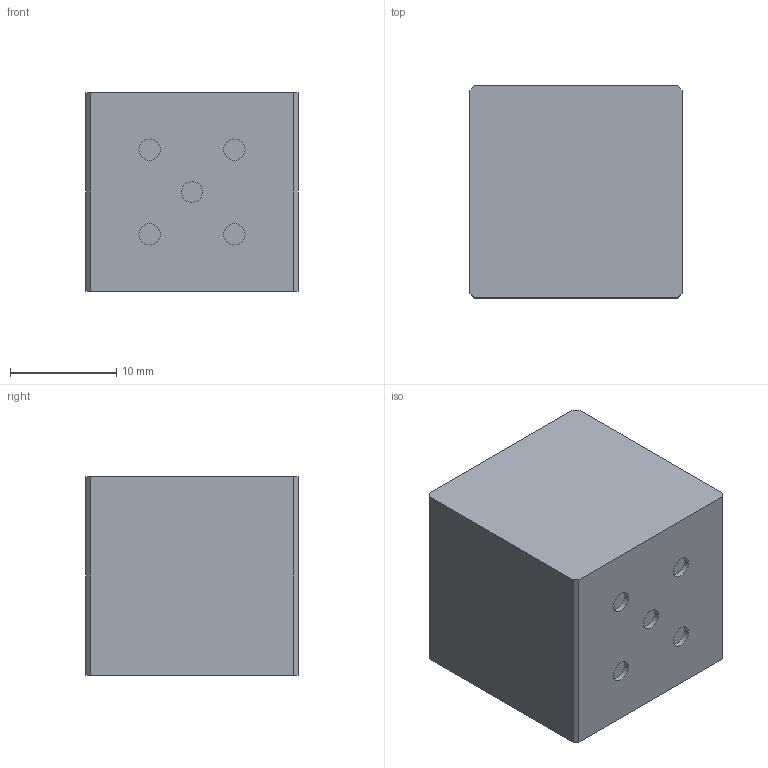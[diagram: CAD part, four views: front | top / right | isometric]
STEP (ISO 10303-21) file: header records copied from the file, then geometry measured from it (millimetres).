
FILE_DESCRIPTION(('Open CASCADE Model'),'2;1');
FILE_NAME('Open CASCADE Shape Model','2026-08-23T08:04:38',('Author'),( 'Open CASCADE'),'Open CASCADE STEP processor 7.9','Open CASCADE 7.9' ,'Unknown');
FILE_SCHEMA(('AUTOMOTIVE_DESIGN { 1 0 10303 214 1 1 1 1 }'));
Length unit declared in the file: millimetre
Products named in the file (2): =>[0:1:1:2]; COMPOUND
Assembly tree (1 placements, depth 2):
  =>[0:1:1:2]
    COMPOUND
Bounding box: 20 x 20 x 18.75 mm (x, y, z)
Volume: 7486.1 mm3; surface area: 2297.5 mm2
Topology: 1 solids, 1 shells, 20 faces, 39 edges, 26 vertices
Faces by surface type: plane 15, cylinder 5
Full cylindrical faces by diameter (mm): 2 x5
Entity records: 1079 total; most frequent: CARTESIAN_POINT 195, DIRECTION 166, LINE 97, VECTOR 97, ORIENTED_EDGE 78, PCURVE 78, DEFINITIONAL_REPRESENTATION 78, EDGE_CURVE 39
